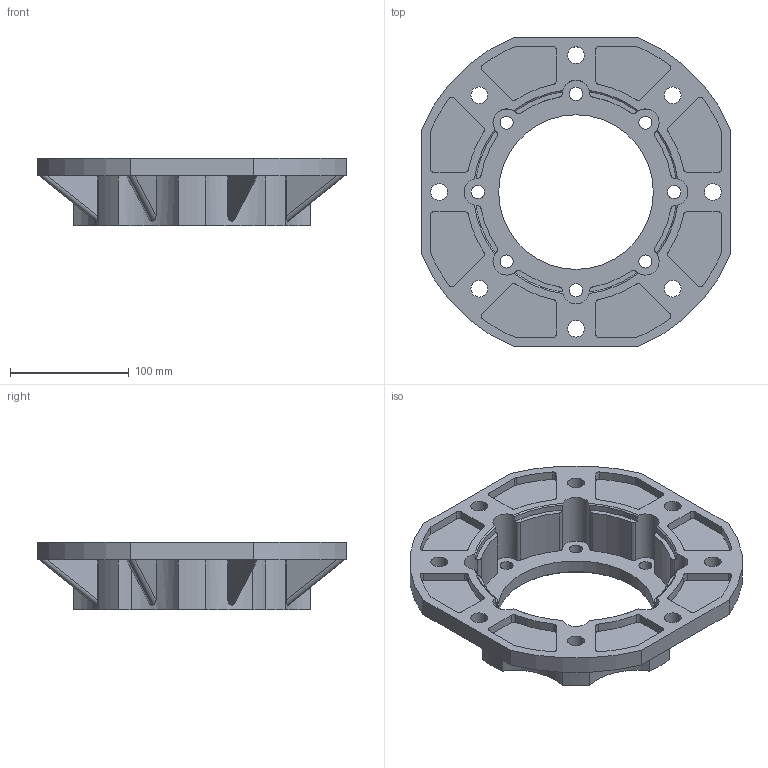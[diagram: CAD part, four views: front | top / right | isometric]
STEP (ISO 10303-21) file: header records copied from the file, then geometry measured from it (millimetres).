
FILE_DESCRIPTION (( 'STEP AP203' ), '1' );
FILE_NAME ('FCN 110-FA.STEP', '2017-01-19T05:53:49', ( 'jsk-23' ), ( 'hx' ), 'SwSTEP 2.0', 'SolidWorks 2012', '' );
FILE_SCHEMA (( 'CONFIG_CONTROL_DESIGN' ));
Length unit declared in the file: millimetre
Products named in the file (1): FCN 110-FA
Bounding box: 260 x 260 x 57 mm (x, y, z)
Volume: 740263.5 mm3; surface area: 196533.7 mm2
Topology: 1 solids, 1 shells, 336 faces, 946 edges, 630 vertices
Faces by surface type: cylinder 238, plane 88, cone 10
Entity records: 11477 total; most frequent: CARTESIAN_POINT 2293, DIRECTION 2034, ORIENTED_EDGE 1892, EDGE_CURVE 946, AXIS2_PLACEMENT_3D 807, VERTEX_POINT 630, CIRCLE 470, VECTOR 420
